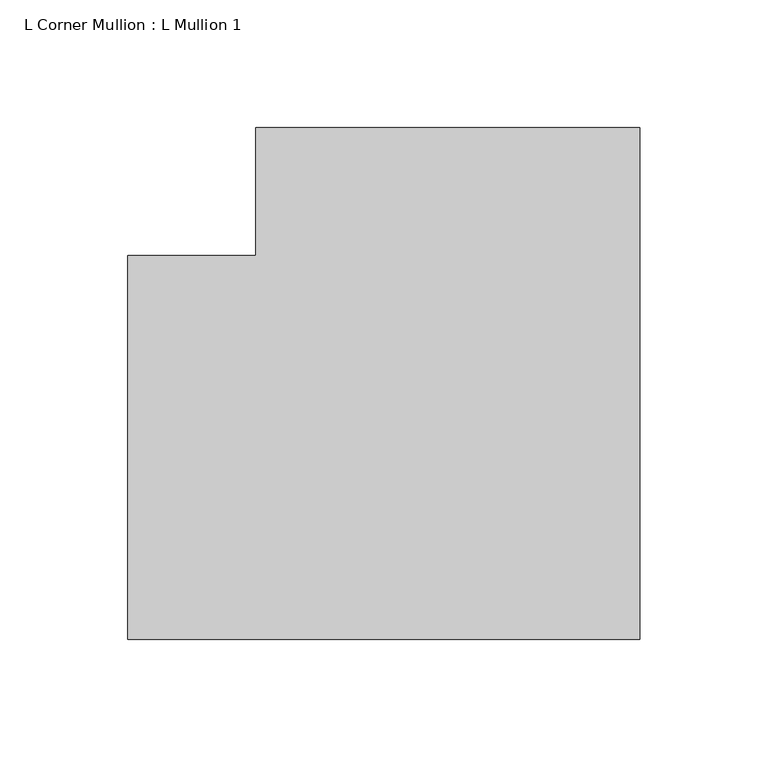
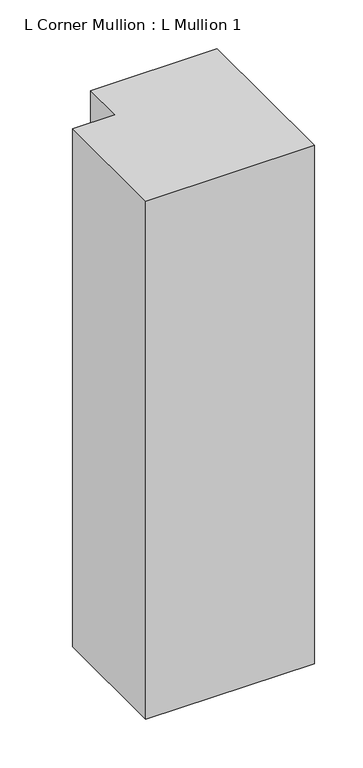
"""IFC4 building model written with IfcOpenShell, lengths in millimetres: member geometry, L Corner Mullion : L Mullion 1."""

from ifc_helpers import new_model, si_unit, frame, origin, place, context, project, spatial, polyline, outline, extrude, source, transform, mapped, element, save


def l_corner_mullion_l_mullion_1_8c2c0706(model_context):
    return source(origin(), model_context, "Body", "SweptSolid", [
        extrude(outline(polyline([(75.0, 125.0), (75.0, -75.0), (-125.0, -75.0), (-125.0, 75.0), (-75.0, 75.0), (-75.0, 125.0), (75.0, 125.0)])), frame((0.0, 0.0, -650.0), z_axis=(0.0, 0.0, 1.0), x_axis=(1.0, 0.0, 0.0)), (0.0, 0.0, 1.0), 650.0),
    ])


if __name__ == "__main__":
    model = new_model("IFC4")
    model_context = context("Model", 3, world=origin())
    ifc_project = project(units=[si_unit("LENGTHUNIT", "METRE", prefix="MILLI")], contexts=[model_context])
    site = spatial("IfcSite", under=ifc_project)
    building = spatial("IfcBuilding", under=site)
    placement = place(None, origin())
    l_corner_mullion_l_mullion_1_shape = l_corner_mullion_l_mullion_1_8c2c0706(model_context)
    element("IfcMember", 1, ObjectType="L Corner Mullion : L Mullion 1", at=placement, inside=building, context=model_context, shape_type="MappedRepresentation", body=[
        mapped(l_corner_mullion_l_mullion_1_shape, transform((0.0, 0.0, 0.0), x_axis=(1.0, 0.0, 0.0), y_axis=(0.0, 1.0, 0.0), z_axis=(0.0, 0.0, 1.0))),
    ])
    save(model, "model.ifc")
